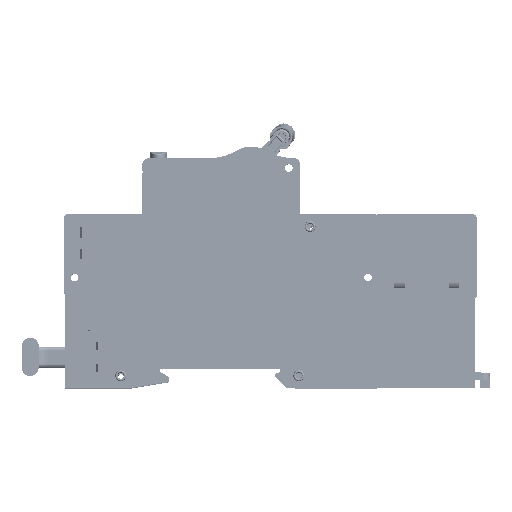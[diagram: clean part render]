
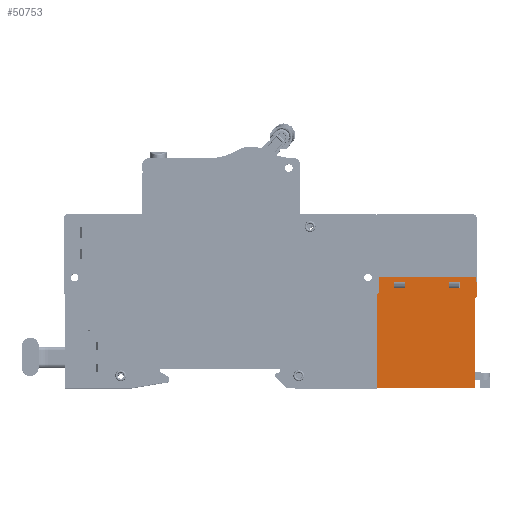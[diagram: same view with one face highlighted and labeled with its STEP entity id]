
A CAD part, top view. The second image highlights one B-rep face of the part: STEP entity #50753.
In plain terms, the highlighted planar face has unit normal (0, 0, 1).
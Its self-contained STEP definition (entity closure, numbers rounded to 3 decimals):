
#1293 = VECTOR ( 'NONE', #551849, 1000. ) ;
#2910 = ORIENTED_EDGE ( 'NONE', *, *, #12142, .F. ) ;
#12142 = EDGE_CURVE ( 'NONE', #151998, #223992, #113579, .T. ) ;
#14161 = VERTEX_POINT ( 'NONE', #407862 ) ;
#20979 = AXIS2_PLACEMENT_3D ( 'NONE', #489355, #178165, #173627 ) ;
#22887 = ORIENTED_EDGE ( 'NONE', *, *, #513017, .F. ) ;
#23699 = EDGE_LOOP ( 'NONE', ( #435303, #28401, #656198, #484994 ) ) ;
#28401 = ORIENTED_EDGE ( 'NONE', *, *, #346540, .F. ) ;
#31395 = VECTOR ( 'NONE', #36021, 1000. ) ;
#34188 = LINE ( 'NONE', #395050, #1293 ) ;
#36021 = DIRECTION ( 'NONE',  ( 0., -1., 0. ) ) ;
#45229 = DIRECTION ( 'NONE',  ( -1., 0., 0. ) ) ;
#50753 = ADVANCED_FACE ( 'NONE', ( #395330, #527084, #131694 ), #654938, .F. ) ;
#56364 = ORIENTED_EDGE ( 'NONE', *, *, #360152, .F. ) ;
#57601 = LINE ( 'NONE', #550906, #461413 ) ;
#69234 = VECTOR ( 'NONE', #305048, 1000. ) ;
#70848 = EDGE_CURVE ( 'NONE', #514201, #14161, #357007, .T. ) ;
#76598 = VERTEX_POINT ( 'NONE', #426223 ) ;
#80705 = CARTESIAN_POINT ( 'NONE',  ( 68.362, -10.459, 124.564 ) ) ;
#90838 = CARTESIAN_POINT ( 'NONE',  ( 40.062, -35.259, 124.564 ) ) ;
#91236 = CARTESIAN_POINT ( 'NONE',  ( 67.962, -9.059, 124.564 ) ) ;
#100035 = VERTEX_POINT ( 'NONE', #153278 ) ;
#113579 = LINE ( 'NONE', #626019, #467913 ) ;
#131229 = CARTESIAN_POINT ( 'NONE',  ( 68.162, -9.059, 124.564 ) ) ;
#131694 = FACE_OUTER_BOUND ( 'NONE', #644307, .T. ) ;
#135257 = VERTEX_POINT ( 'NONE', #456507 ) ;
#138957 = VERTEX_POINT ( 'NONE', #176989 ) ;
#142872 = EDGE_CURVE ( 'NONE', #135257, #393143, #478245, .T. ) ;
#144198 = CARTESIAN_POINT ( 'NONE',  ( 68.162, -9.059, 124.564 ) ) ;
#145296 = EDGE_CURVE ( 'NONE', #76598, #330410, #572361, .T. ) ;
#147069 = EDGE_CURVE ( 'NONE', #14161, #608368, #328423, .T. ) ;
#151998 = VERTEX_POINT ( 'NONE', #187158 ) ;
#153278 = CARTESIAN_POINT ( 'NONE',  ( 68.162, -10.259, 124.564 ) ) ;
#153612 = LINE ( 'NONE', #314311, #343213 ) ;
#173627 = DIRECTION ( 'NONE',  ( 0., -1., 0. ) ) ;
#176989 = CARTESIAN_POINT ( 'NONE',  ( 67.962, -15.059, 124.564 ) ) ;
#178165 = DIRECTION ( 'NONE',  ( 0., 0., -1. ) ) ;
#182730 = CARTESIAN_POINT ( 'NONE',  ( 48.012, -12.359, 124.564 ) ) ;
#187158 = CARTESIAN_POINT ( 'NONE',  ( 40.462, -9.059, 124.564 ) ) ;
#192077 = LINE ( 'NONE', #360331, #398213 ) ;
#196523 = EDGE_CURVE ( 'NONE', #151998, #514201, #580160, .T. ) ;
#197205 = ORIENTED_EDGE ( 'NONE', *, *, #335224, .F. ) ;
#197597 = DIRECTION ( 'NONE',  ( 1., 0., 0. ) ) ;
#198662 = EDGE_CURVE ( 'NONE', #330410, #553329, #316391, .T. ) ;
#218509 = CARTESIAN_POINT ( 'NONE',  ( 68.362, -10.459, 124.564 ) ) ;
#223992 = VERTEX_POINT ( 'NONE', #131229 ) ;
#245028 = EDGE_LOOP ( 'NONE', ( #22887, #411719, #518509, #642200 ) ) ;
#248728 = VERTEX_POINT ( 'NONE', #299579 ) ;
#253515 = VERTEX_POINT ( 'NONE', #602760 ) ;
#259858 = DIRECTION ( 'NONE',  ( -1., 0., 0. ) ) ;
#260109 = EDGE_CURVE ( 'NONE', #393143, #253515, #656609, .T. ) ;
#286407 = VECTOR ( 'NONE', #259858, 1000. ) ;
#292620 = DIRECTION ( 'NONE',  ( 0., -1., 0. ) ) ;
#299579 = CARTESIAN_POINT ( 'NONE',  ( 68.362, -14.707, 124.564 ) ) ;
#305048 = DIRECTION ( 'NONE',  ( -1., 0., 0. ) ) ;
#312292 = CARTESIAN_POINT ( 'NONE',  ( 67.962, -40.659, 124.564 ) ) ;
#314311 = CARTESIAN_POINT ( 'NONE',  ( 60.912, -12.359, 124.564 ) ) ;
#316391 = LINE ( 'NONE', #417808, #69234 ) ;
#323867 = VERTEX_POINT ( 'NONE', #509735 ) ;
#327485 = VERTEX_POINT ( 'NONE', #352457 ) ;
#328115 = CARTESIAN_POINT ( 'NONE',  ( 44.912, -12.359, 124.564 ) ) ;
#328423 = LINE ( 'NONE', #90838, #617370 ) ;
#330200 = DIRECTION ( 'NONE',  ( 0., 1., 0. ) ) ;
#330410 = VERTEX_POINT ( 'NONE', #651412 ) ;
#335224 = EDGE_CURVE ( 'NONE', #323867, #608368, #571344, .T. ) ;
#336064 = LINE ( 'NONE', #545823, #286407 ) ;
#343213 = VECTOR ( 'NONE', #413443, 1000. ) ;
#346540 = EDGE_CURVE ( 'NONE', #327485, #76598, #153612, .T. ) ;
#349477 = VECTOR ( 'NONE', #355785, 1000. ) ;
#351453 = VECTOR ( 'NONE', #485833, 1000. ) ;
#352457 = CARTESIAN_POINT ( 'NONE',  ( 60.412, -12.359, 124.564 ) ) ;
#355785 = DIRECTION ( 'NONE',  ( 0., 1., 0. ) ) ;
#357007 = LINE ( 'NONE', #680601, #530359 ) ;
#360152 = EDGE_CURVE ( 'NONE', #223992, #100035, #468325, .T. ) ;
#360331 = CARTESIAN_POINT ( 'NONE',  ( 50.196, -30.697, 124.564 ) ) ;
#360385 = CARTESIAN_POINT ( 'NONE',  ( 63.512, -12.359, 124.564 ) ) ;
#377613 = LINE ( 'NONE', #91236, #31395 ) ;
#380100 = CARTESIAN_POINT ( 'NONE',  ( 40.062, -40.659, 124.564 ) ) ;
#380513 = EDGE_CURVE ( 'NONE', #100035, #490857, #590217, .T. ) ;
#393143 = VERTEX_POINT ( 'NONE', #328115 ) ;
#395050 = CARTESIAN_POINT ( 'NONE',  ( 68.362, -35.259, 124.564 ) ) ;
#395330 = FACE_BOUND ( 'NONE', #23699, .T. ) ;
#398213 = VECTOR ( 'NONE', #673768, 1000. ) ;
#401530 = EDGE_CURVE ( 'NONE', #138957, #323867, #377613, .T. ) ;
#406280 = DIRECTION ( 'NONE',  ( 0., -1., 0. ) ) ;
#406702 = DIRECTION ( 'NONE',  ( 0., -1., 0. ) ) ;
#407862 = CARTESIAN_POINT ( 'NONE',  ( 40.062, -14.059, 124.564 ) ) ;
#411719 = ORIENTED_EDGE ( 'NONE', *, *, #260109, .F. ) ;
#413443 = DIRECTION ( 'NONE',  ( 1., 0., 0. ) ) ;
#417808 = CARTESIAN_POINT ( 'NONE',  ( 60.912, -10.459, 124.564 ) ) ;
#426223 = CARTESIAN_POINT ( 'NONE',  ( 63.512, -12.359, 124.564 ) ) ;
#429196 = ORIENTED_EDGE ( 'NONE', *, *, #380513, .F. ) ;
#429790 = VERTEX_POINT ( 'NONE', #517643 ) ;
#430156 = ORIENTED_EDGE ( 'NONE', *, *, #623488, .F. ) ;
#432019 = ORIENTED_EDGE ( 'NONE', *, *, #70848, .T. ) ;
#435303 = ORIENTED_EDGE ( 'NONE', *, *, #145296, .F. ) ;
#444173 = ORIENTED_EDGE ( 'NONE', *, *, #147069, .T. ) ;
#454867 = CARTESIAN_POINT ( 'NONE',  ( 40.462, -9.059, 124.564 ) ) ;
#456507 = CARTESIAN_POINT ( 'NONE',  ( 44.912, -10.459, 124.564 ) ) ;
#461413 = VECTOR ( 'NONE', #292620, 1000. ) ;
#467913 = VECTOR ( 'NONE', #197597, 1000. ) ;
#468325 = LINE ( 'NONE', #144198, #509306 ) ;
#472427 = VECTOR ( 'NONE', #45229, 1000. ) ;
#478245 = LINE ( 'NONE', #654262, #560648 ) ;
#484770 = LINE ( 'NONE', #182730, #657816 ) ;
#484994 = ORIENTED_EDGE ( 'NONE', *, *, #198662, .F. ) ;
#485833 = DIRECTION ( 'NONE',  ( 0.707, -0.707, 0. ) ) ;
#486754 = EDGE_CURVE ( 'NONE', #490857, #248728, #34188, .T. ) ;
#488658 = DIRECTION ( 'NONE',  ( 0., -1., 0. ) ) ;
#489355 = CARTESIAN_POINT ( 'NONE',  ( 67.962, -9.059, 124.564 ) ) ;
#490857 = VERTEX_POINT ( 'NONE', #80705 ) ;
#509306 = VECTOR ( 'NONE', #406702, 1000. ) ;
#509735 = CARTESIAN_POINT ( 'NONE',  ( 67.962, -40.659, 124.564 ) ) ;
#513017 = EDGE_CURVE ( 'NONE', #253515, #429790, #484770, .T. ) ;
#514201 = VERTEX_POINT ( 'NONE', #564275 ) ;
#517643 = CARTESIAN_POINT ( 'NONE',  ( 48.012, -10.459, 124.564 ) ) ;
#518509 = ORIENTED_EDGE ( 'NONE', *, *, #142872, .F. ) ;
#523916 = DIRECTION ( 'NONE',  ( -0.707, -0.707, 0. ) ) ;
#526312 = ORIENTED_EDGE ( 'NONE', *, *, #401530, .F. ) ;
#527084 = FACE_BOUND ( 'NONE', #245028, .T. ) ;
#530359 = VECTOR ( 'NONE', #523916, 1000. ) ;
#535017 = EDGE_CURVE ( 'NONE', #429790, #135257, #336064, .T. ) ;
#543200 = CARTESIAN_POINT ( 'NONE',  ( 45.412, -12.359, 124.564 ) ) ;
#545823 = CARTESIAN_POINT ( 'NONE',  ( 45.412, -10.459, 124.564 ) ) ;
#549999 = DIRECTION ( 'NONE',  ( 1., 0., 0. ) ) ;
#550906 = CARTESIAN_POINT ( 'NONE',  ( 60.412, -12.359, 124.564 ) ) ;
#551849 = DIRECTION ( 'NONE',  ( 0., -1., 0. ) ) ;
#553329 = VERTEX_POINT ( 'NONE', #651217 ) ;
#557459 = VECTOR ( 'NONE', #549999, 1000. ) ;
#560648 = VECTOR ( 'NONE', #488658, 1000. ) ;
#561785 = ORIENTED_EDGE ( 'NONE', *, *, #196523, .T. ) ;
#563047 = DIRECTION ( 'NONE',  ( 0., -1., 0. ) ) ;
#564275 = CARTESIAN_POINT ( 'NONE',  ( 40.462, -13.659, 124.564 ) ) ;
#571344 = LINE ( 'NONE', #312292, #472427 ) ;
#572361 = LINE ( 'NONE', #360385, #349477 ) ;
#580160 = LINE ( 'NONE', #454867, #605211 ) ;
#590217 = LINE ( 'NONE', #218509, #351453 ) ;
#602760 = CARTESIAN_POINT ( 'NONE',  ( 48.012, -12.359, 124.564 ) ) ;
#603712 = EDGE_CURVE ( 'NONE', #553329, #327485, #57601, .T. ) ;
#605211 = VECTOR ( 'NONE', #406280, 1000. ) ;
#608368 = VERTEX_POINT ( 'NONE', #380100 ) ;
#617370 = VECTOR ( 'NONE', #563047, 1000. ) ;
#623488 = EDGE_CURVE ( 'NONE', #248728, #138957, #192077, .T. ) ;
#626019 = CARTESIAN_POINT ( 'NONE',  ( 67.962, -9.059, 124.564 ) ) ;
#634341 = ORIENTED_EDGE ( 'NONE', *, *, #486754, .F. ) ;
#642200 = ORIENTED_EDGE ( 'NONE', *, *, #535017, .F. ) ;
#644307 = EDGE_LOOP ( 'NONE', ( #634341, #429196, #56364, #2910, #561785, #432019, #444173, #197205, #526312, #430156 ) ) ;
#651217 = CARTESIAN_POINT ( 'NONE',  ( 60.412, -10.459, 124.564 ) ) ;
#651412 = CARTESIAN_POINT ( 'NONE',  ( 63.512, -10.459, 124.564 ) ) ;
#654262 = CARTESIAN_POINT ( 'NONE',  ( 44.912, -12.359, 124.564 ) ) ;
#654938 = PLANE ( 'NONE',  #20979 ) ;
#656198 = ORIENTED_EDGE ( 'NONE', *, *, #603712, .F. ) ;
#656609 = LINE ( 'NONE', #543200, #557459 ) ;
#657816 = VECTOR ( 'NONE', #330200, 1000. ) ;
#673768 = DIRECTION ( 'NONE',  ( -0.751, -0.661, 0. ) ) ;
#680601 = CARTESIAN_POINT ( 'NONE',  ( 40.062, -14.059, 124.564 ) ) ;
